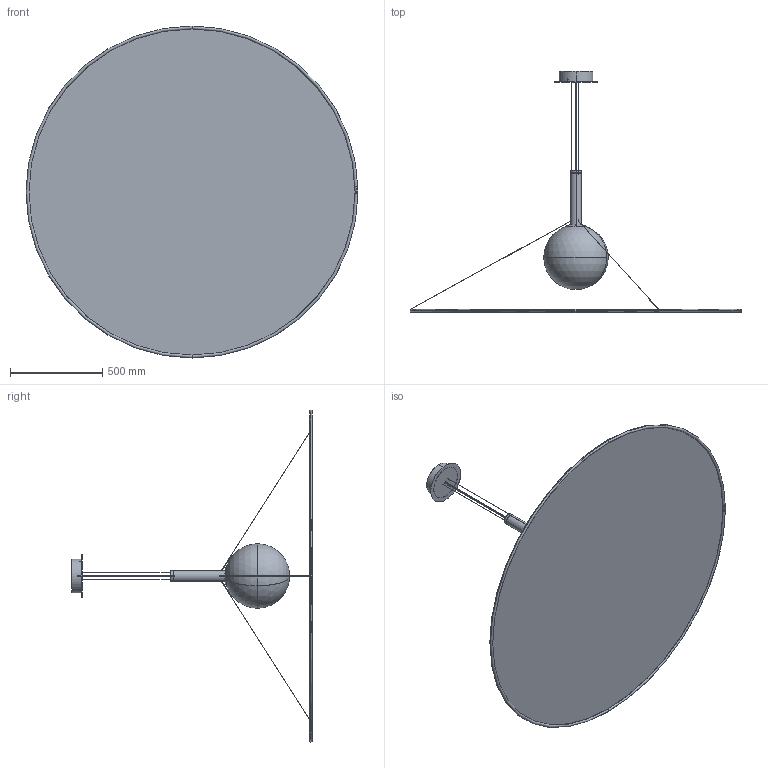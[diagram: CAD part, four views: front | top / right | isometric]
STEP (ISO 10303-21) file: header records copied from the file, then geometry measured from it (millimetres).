
FILE_DESCRIPTION (( 'STEP AP203' ), '1' );
FILE_NAME ('1800up.STEP', '2019-07-25T15:55:38', ( '' ), ( '' ), 'SwSTEP 2.0', 'SolidWorks 2019', '' );
FILE_SCHEMA (( 'CONFIG_CONTROL_DESIGN' ));
Length unit declared in the file: millimetre
Products named in the file (21): 0.0C.AXO02.LS03.03.STEP; Nipplo A_NIPPLO M10x1 H.7 NERO.STEP; 1.5A.AXO02.LS01.S1_rev_A.STEP; 0.0A.AXO02.LS03.M2.STEP; 0.5C.AXO02.LS02.06_rev_A.STEP; 1.5C.AXO02.LS01.04.STEP; 1.5A.AXO02.LS01.S3.STEP; 0.0C.AXO02.LS03.01_rev_A_SENZA CARICO.STEP; 1.5C.AXO02.LS01.13_rev_A_Default_A macchina_.STEP; Part344^1800up; 1800up; 1.5A.AXO02.LS01.M7.STEP; 1.5C.AXO02.LS01.17_rev_A.STEP; 1.5C.AXO02.LS01.51.STEP; 1800up.STEP; 1.5C.AXO02.LS01.20_rev_A_Default_A macchina_.STEP; 1.5C.AXO02.LS01.50_FUNE D''''ACCIAIO INOX 49 CAPI L.500.STEP; 0.0A.AXO02.LS03.M1.STEP; Finale Maschio M6 art.21024.STEP; Bloccacavo Steab_BLOCCACAVO STEAB M13x1 5346-11-2-6 NERO.STEP; 0.0C.AXO02.LS03.98.STEP
Assembly tree (26 placements, depth 5):
  1800up
    1800up.STEP
      1.5A.AXO02.LS01.S1_rev_A.STEP
        1.5C.AXO02.LS01.04.STEP
      0.0A.AXO02.LS03.M1.STEP
        0.0C.AXO02.LS03.01_rev_A_SENZA CARICO.STEP
      0.0A.AXO02.LS03.M2.STEP
        0.0C.AXO02.LS03.03.STEP
        0.5C.AXO02.LS02.06_rev_A.STEP
      1.5A.AXO02.LS01.M7.STEP
        1.5A.AXO02.LS01.S3.STEP
          1.5C.AXO02.LS01.17_rev_A.STEP
        Nipplo A_NIPPLO M10x1 H.7 NERO.STEP
        1.5C.AXO02.LS01.20_rev_A_Default_A macchina_.STEP
      1.5C.AXO02.LS01.50_FUNE D''''ACCIAIO INOX 49 CAPI L.500.STEP  x3
      Finale Maschio M6 art.21024.STEP  x3
      Bloccacavo Steab_BLOCCACAVO STEAB M13x1 5346-11-2-6 NERO.STEP
      1.5C.AXO02.LS01.13_rev_A_Default_A macchina_.STEP
      0.0C.AXO02.LS03.98.STEP  x3
      1.5C.AXO02.LS01.51.STEP
    Part344^1800up
Bounding box: 1800 x 1306.21 x 1800 mm (x, y, z)
Volume: 4328798.4 mm3; surface area: 6632540.8 mm2
Topology: 29 solids, 29 shells, 595 faces, 1350 edges, 833 vertices
Faces by surface type: cylinder 296, plane 132, torus 102, cone 51, sphere 14
Entity records: 19069 total; most frequent: CARTESIAN_POINT 5598, DIRECTION 2552, ORIENTED_EDGE 2124, AXIS2_PLACEMENT_3D 1085, EDGE_CURVE 1062, VERTEX_POINT 671, EDGE_LOOP 595, CIRCLE 585
